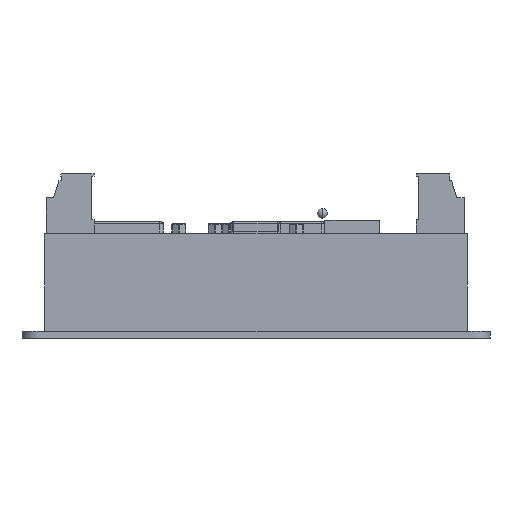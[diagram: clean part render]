
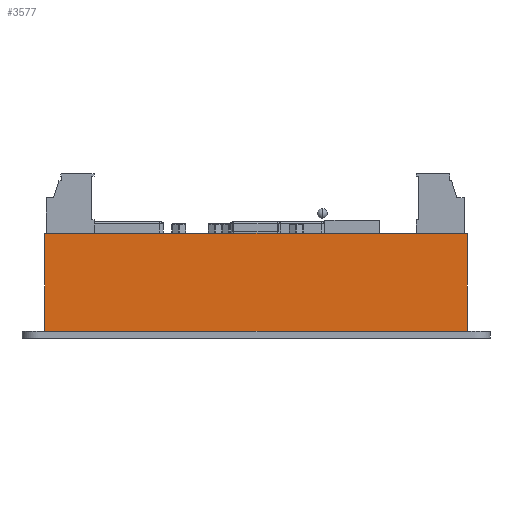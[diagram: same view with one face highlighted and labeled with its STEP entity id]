
A CAD part, left-side view. The second image highlights one B-rep face of the part: STEP entity #3577.
In plain terms, the highlighted planar face has unit normal (-1, 0, 0).
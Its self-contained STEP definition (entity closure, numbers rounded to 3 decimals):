
#2695 = ORIENTED_EDGE ( 'NONE', *, *, #54899, .T. ) ;
#3577 = ADVANCED_FACE ( 'NONE', ( #27423 ), #32782, .F. ) ;
#4957 = CARTESIAN_POINT ( 'NONE',  ( 476.082, 135.829, -29. ) ) ;
#5302 = CARTESIAN_POINT ( 'NONE',  ( 476.082, 104.579, -29. ) ) ;
#6962 = CARTESIAN_POINT ( 'NONE',  ( 476.082, 104.579, 0. ) ) ;
#7844 = CARTESIAN_POINT ( 'NONE',  ( 476.082, 229.579, -30. ) ) ;
#8039 = VECTOR ( 'NONE', #33894, 1000. ) ;
#10697 = CARTESIAN_POINT ( 'NONE',  ( 476.082, 167.079, -29. ) ) ;
#11410 = CARTESIAN_POINT ( 'NONE',  ( 476.082, 229.579, -29. ) ) ;
#14908 = VERTEX_POINT ( 'NONE', #58439 ) ;
#16652 = DIRECTION ( 'NONE',  ( 0., 1., 0. ) ) ;
#18120 = ORIENTED_EDGE ( 'NONE', *, *, #23940, .F. ) ;
#19113 = VERTEX_POINT ( 'NONE', #66877 ) ;
#20130 = B_SPLINE_CURVE_WITH_KNOTS ( 'NONE', 3,
 ( #21239, #66013, #59960, #65660 ),
 .UNSPECIFIED., .F., .F.,
 ( 4, 4 ),
 ( 0., 1. ),
 .UNSPECIFIED. ) ;
#21239 = CARTESIAN_POINT ( 'NONE',  ( 476.082, 104.579, 0. ) ) ;
#23092 = VERTEX_POINT ( 'NONE', #6962 ) ;
#23940 = EDGE_CURVE ( 'NONE', #14908, #19113, #56626, .T. ) ;
#24874 = ORIENTED_EDGE ( 'NONE', *, *, #41441, .F. ) ;
#27423 = FACE_OUTER_BOUND ( 'NONE', #56327, .T. ) ;
#29226 = LINE ( 'NONE', #44655, #8039 ) ;
#32195 = CARTESIAN_POINT ( 'NONE',  ( 476.082, 104.579, -29. ) ) ;
#32782 = PLANE ( 'NONE',  #44195 ) ;
#33894 = DIRECTION ( 'NONE',  ( 0., 0., 1. ) ) ;
#37826 = DIRECTION ( 'NONE',  ( 1., 0., 0. ) ) ;
#38806 = EDGE_CURVE ( 'NONE', #62187, #23092, #29226, .T. ) ;
#41441 = EDGE_CURVE ( 'NONE', #62187, #14908, #61823, .T. ) ;
#44195 = AXIS2_PLACEMENT_3D ( 'NONE', #44957, #37826, #16652 ) ;
#44655 = CARTESIAN_POINT ( 'NONE',  ( 476.082, 104.579, -30. ) ) ;
#44957 = CARTESIAN_POINT ( 'NONE',  ( 476.082, 104.579, -30. ) ) ;
#46207 = DIRECTION ( 'NONE',  ( 0., 0., 1. ) ) ;
#49043 = CARTESIAN_POINT ( 'NONE',  ( 476.082, 198.329, -29. ) ) ;
#54899 = EDGE_CURVE ( 'NONE', #23092, #19113, #20130, .T. ) ;
#56327 = EDGE_LOOP ( 'NONE', ( #24874, #68000, #2695, #18120 ) ) ;
#56626 = LINE ( 'NONE', #7844, #69619 ) ;
#58439 = CARTESIAN_POINT ( 'NONE',  ( 476.082, 229.579, -29. ) ) ;
#59960 = CARTESIAN_POINT ( 'NONE',  ( 476.082, 187.913, 0. ) ) ;
#61823 =( BOUNDED_CURVE ( )  B_SPLINE_CURVE ( 4, ( #5302, #4957, #10697, #49043, #11410 ),
 .UNSPECIFIED., .F., .F. ) 
 B_SPLINE_CURVE_WITH_KNOTS ( ( 5, 5 ),
 ( 0., 1. ),
 .UNSPECIFIED. ) 
 CURVE ( )  GEOMETRIC_REPRESENTATION_ITEM ( )  RATIONAL_B_SPLINE_CURVE ( ( 0.586, 0.586, 0.586, 0.586, 0.586 ) ) 
 REPRESENTATION_ITEM ( '' )  );
#62187 = VERTEX_POINT ( 'NONE', #32195 ) ;
#65660 = CARTESIAN_POINT ( 'NONE',  ( 476.082, 229.579, 0. ) ) ;
#66013 = CARTESIAN_POINT ( 'NONE',  ( 476.082, 146.246, 0. ) ) ;
#66877 = CARTESIAN_POINT ( 'NONE',  ( 476.082, 229.579, 0. ) ) ;
#68000 = ORIENTED_EDGE ( 'NONE', *, *, #38806, .T. ) ;
#69619 = VECTOR ( 'NONE', #46207, 1000. ) ;
